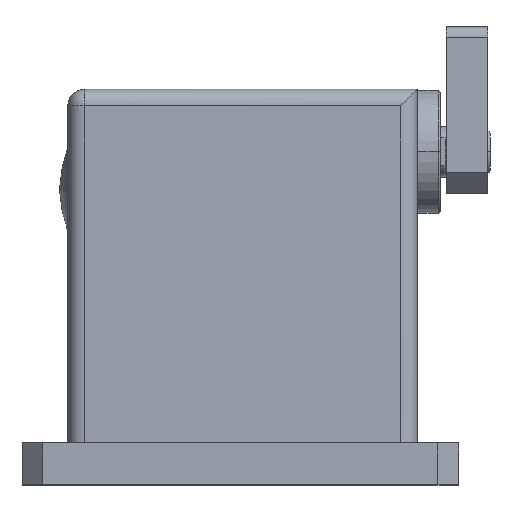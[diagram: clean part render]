
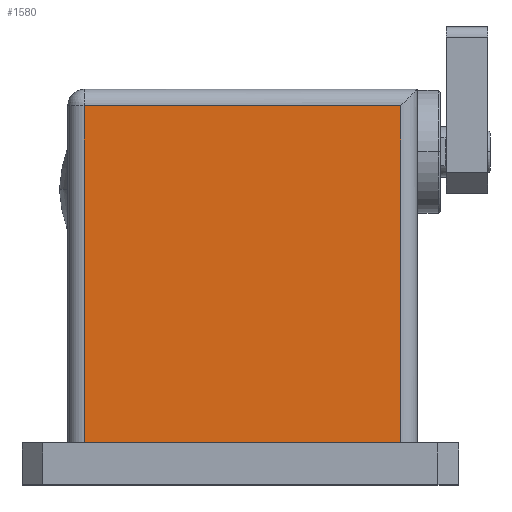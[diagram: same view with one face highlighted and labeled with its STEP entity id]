
A CAD part, top view. The second image highlights one B-rep face of the part: STEP entity #1580.
In plain terms, the highlighted planar face has unit normal (0, 0, 1).
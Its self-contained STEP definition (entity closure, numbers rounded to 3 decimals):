
#1366 = VERTEX_POINT ( 'NONE', #4454 ) ;
#1508 = VERTEX_POINT ( 'NONE', #4728 ) ;
#1578 = EDGE_CURVE ( 'NONE', #1366, #1508, #4855, .T. ) ;
#1579 = ORIENTED_EDGE ( 'NONE', *, *, #1578, .T. ) ;
#1580 = ADVANCED_FACE ( 'NONE', ( #4851 ), #4850, .F. ) ;
#1581 = EDGE_LOOP ( 'NONE', ( #1579, #6917, #6915, #6913 ) ) ;
#4454 = CARTESIAN_POINT ( 'NONE',  ( 15., 10., 80. ) ) ;
#4728 = CARTESIAN_POINT ( 'NONE',  ( 91., 10., 80. ) ) ;
#4846 = DIRECTION ( 'NONE',  ( -1., 0., 0. ) ) ;
#4847 = DIRECTION ( 'NONE',  ( 0., 0., -1. ) ) ;
#4848 = CARTESIAN_POINT ( 'NONE',  ( 11., 95., 80. ) ) ;
#4849 = AXIS2_PLACEMENT_3D ( 'NONE', #4848, #4847, #4846 ) ;
#4850 = PLANE ( 'NONE',  #4849 ) ;
#4851 = FACE_OUTER_BOUND ( 'NONE', #1581, .T. ) ;
#4852 = DIRECTION ( 'NONE',  ( 1., 0., 0. ) ) ;
#4853 = VECTOR ( 'NONE', #4852, 1000. ) ;
#4854 = CARTESIAN_POINT ( 'NONE',  ( 11., 10., 80. ) ) ;
#4855 = LINE ( 'NONE', #4854, #4853 ) ;
#6343 = DIRECTION ( 'NONE',  ( 0., -1., 0. ) ) ;
#6344 = VECTOR ( 'NONE', #6343, 1000. ) ;
#6345 = CARTESIAN_POINT ( 'NONE',  ( 15., 95., 80. ) ) ;
#6346 = LINE ( 'NONE', #6345, #6344 ) ;
#6380 = CARTESIAN_POINT ( 'NONE',  ( 15., 91., 80. ) ) ;
#6382 = DIRECTION ( 'NONE',  ( 0., 1., 0. ) ) ;
#6383 = VECTOR ( 'NONE', #6382, 1000. ) ;
#6384 = CARTESIAN_POINT ( 'NONE',  ( 91., 95., 80. ) ) ;
#6385 = LINE ( 'NONE', #6384, #6383 ) ;
#6390 = CARTESIAN_POINT ( 'NONE',  ( 91., 91., 80. ) ) ;
#6391 = DIRECTION ( 'NONE',  ( -1., 0., 0. ) ) ;
#6392 = VECTOR ( 'NONE', #6391, 1000. ) ;
#6393 = CARTESIAN_POINT ( 'NONE',  ( 11., 91., 80. ) ) ;
#6394 = LINE ( 'NONE', #6393, #6392 ) ;
#6910 = EDGE_CURVE ( 'NONE', #6923, #1366, #6346, .T. ) ;
#6913 = ORIENTED_EDGE ( 'NONE', *, *, #6910, .T. ) ;
#6914 = EDGE_CURVE ( 'NONE', #6916, #6923, #6394, .T. ) ;
#6915 = ORIENTED_EDGE ( 'NONE', *, *, #6914, .T. ) ;
#6916 = VERTEX_POINT ( 'NONE', #6390 ) ;
#6917 = ORIENTED_EDGE ( 'NONE', *, *, #6920, .T. ) ;
#6920 = EDGE_CURVE ( 'NONE', #1508, #6916, #6385, .T. ) ;
#6923 = VERTEX_POINT ( 'NONE', #6380 ) ;
